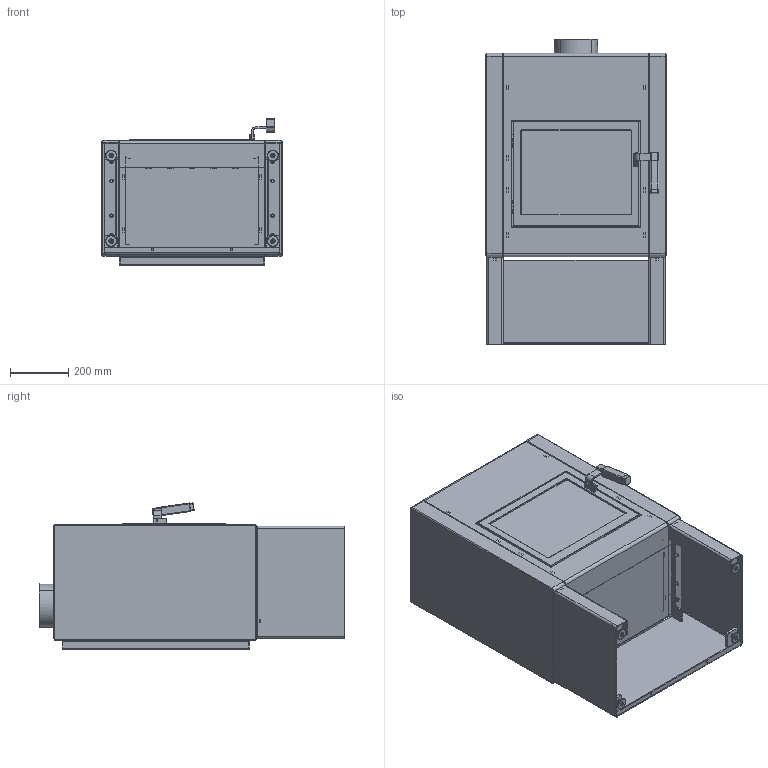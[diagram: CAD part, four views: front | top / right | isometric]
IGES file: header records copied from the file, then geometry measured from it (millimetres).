
Start section: SolidWorks IGES file using analytic representation for surfaces
Global section: file name: L:\Ontwikkeling\Tekeningen\Internet modellen\Mats\Harrie Leenders Mats.IGS; native system: SolidWorks 2015; preprocessor: SolidWorks 2015; author: Rob; date: 150305.130148; units: millimetre
Bounding box: 620 x 1052 x 503.76 mm (x, y, z)
Surface area: 8416422.1 mm2 (no closed solid volume)
Topology: 0 solids, 0 shells, 2421 faces, 26316 edges, 26246 vertices
Faces by surface type: bspline 1450, revolution 971
